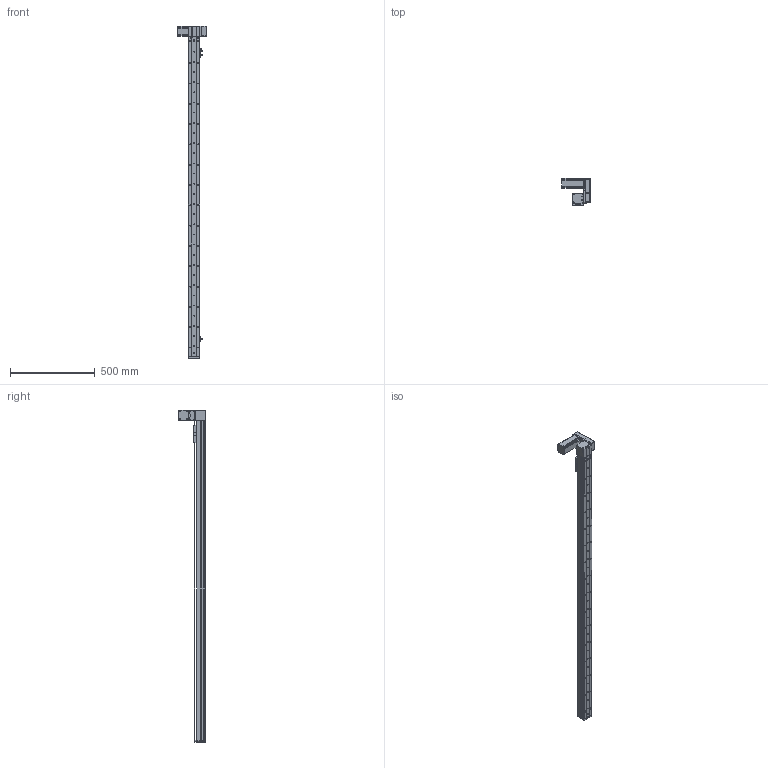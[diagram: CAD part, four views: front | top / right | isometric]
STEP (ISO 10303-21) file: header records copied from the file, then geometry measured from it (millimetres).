
FILE_DESCRIPTION (( 'STEP AP214' ), '1' );
FILE_NAME ('KSD68BS-S1700-MLU-CM.STEP', '2019-10-19T09:30:30', ( '微软用户' ), ( '微软中国' ), 'SwSTEP 2.0', 'SolidWorks 2014', '' );
FILE_SCHEMA (( 'AUTOMOTIVE_DESIGN' ));
Length unit declared in the file: millimetre
Products named in the file (11): 68宽单导轨半封闭同步带主动轮座左; 68单导轨同步带半封闭端板; KSD68BS 1700俴最裔啣圉猾敕; 覜茼え68遵圉猾敕; KSD68BS半封闭同步带传动导轨座; U倰嫖萇EEㄜSX672; 台达ECMA－C20604AS伺服电机（400W); KSD68BS 1700俴最菁啣圉猾敕; KSD68BS-S1700-MLU-CM; 悵誘欶奻狟殏; 68宽马达安装板连板上折同步带
Assembly tree (12 placements, depth 2):
  KSD68BS-S1700-MLU-CM
    KSD68BS 1700俴最菁啣圉猾敕
    台达ECMA－C20604AS伺服电机（400W)
    U倰嫖萇EEㄜSX672  x3
    KSD68BS半封闭同步带传动导轨座
    覜茼え68遵圉猾敕
    KSD68BS 1700俴最裔啣圉猾敕
    68单导轨同步带半封闭端板
    68宽单导轨半封闭同步带主动轮座左
    68宽马达安装板连板上折同步带
    悵誘欶奻狟殏
Bounding box: 167.2 x 159.5 x 1962 mm (x, y, z)
Volume: 3253949.1 mm3; surface area: 1214250.2 mm2
Topology: 13 solids, 13 shells, 1610 faces, 4722 edges, 3078 vertices
Faces by surface type: cylinder 852, plane 675, cone 83
Entity records: 63062 total; most frequent: CARTESIAN_POINT 12738, ORIENTED_EDGE 8196, DIRECTION 7916, EDGE_CURVE 4098, AXIS2_PLACEMENT_3D 2856, VERTEX_POINT 2702, LINE 2204, VECTOR 2204
